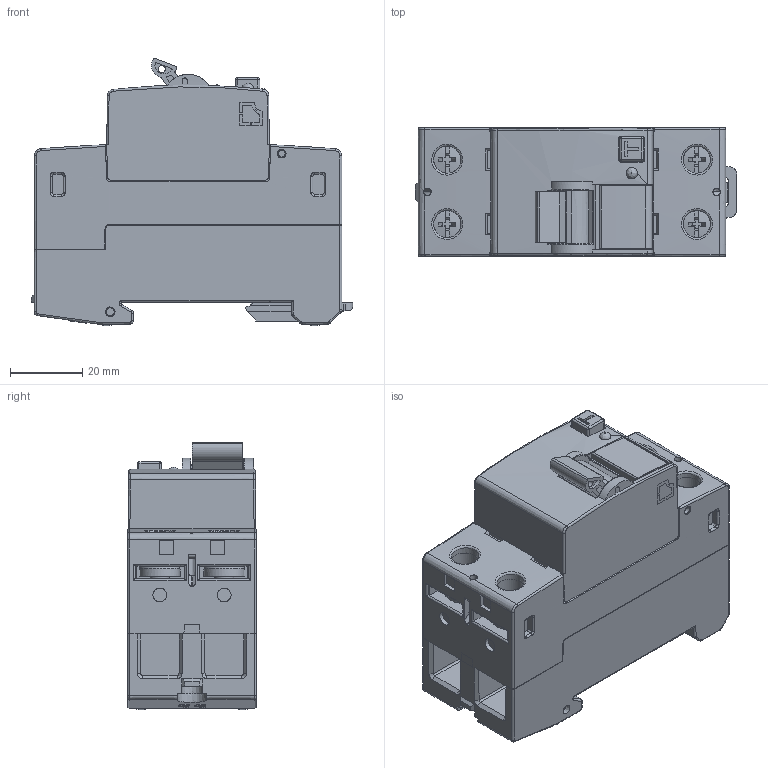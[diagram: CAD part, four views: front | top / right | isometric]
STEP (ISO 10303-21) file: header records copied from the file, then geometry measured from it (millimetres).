
FILE_DESCRIPTION(/* description */ (''),/* implementation_level */ '2;1');
FILE_NAME(/* name */ 'DFS_B_NK.stp',/* time_stamp */ '2019-05-21T16:07:50+02:00',/* author */ (''),/* organization */ (''),/* preprocessor_version */ 'ST-DEVELOPER v16',/* originating_system */ 'SIEMENS PLM Software NX 11.0',/* authorisation */ '');
FILE_SCHEMA (('AUTOMOTIVE_DESIGN { 1 0 10303 214 3 1 1 1 }'));
Length unit declared in the file: millimetre
Products named in the file (1): DFS_B_NK
Bounding box: 88.8 x 35.6 x 73.9 mm (x, y, z)
Volume: 152432.1 mm3; surface area: 32075.8 mm2
Topology: 1 solids, 3 shells, 1108 faces, 3102 edges, 2008 vertices
Faces by surface type: bspline 596, plane 326, cylinder 121, cone 33, sphere 20, extrusion 12
Full cylindrical faces by diameter (mm): 1.4 x2, 2 x3, 5.4 x4, 7.5 x8
Entity records: 59825 total; most frequent: CARTESIAN_POINT 37002, ORIENTED_EDGE 6022, EDGE_CURVE 3011, DIRECTION 2503, VERTEX_POINT 1977, B_SPLINE_CURVE_WITH_KNOTS 1886, EDGE_LOOP 1234, ADVANCED_FACE 1106
